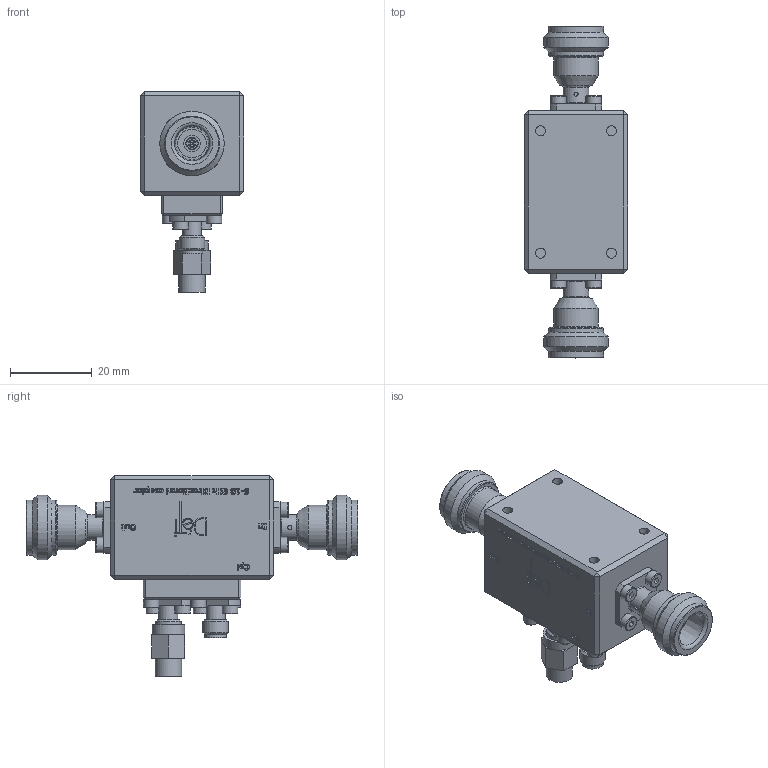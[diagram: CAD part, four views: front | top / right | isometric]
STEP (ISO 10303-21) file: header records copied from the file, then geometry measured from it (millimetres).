
FILE_DESCRIPTION(/* description */ ('Unknown'),/* implementation_level */ '2;1');
FILE_NAME(/* name */ 'DETI_MICROWAVE_HIGH_POWER_UNIDIRECTIONAL_COUPLER_011081_STEP',/* time_stamp */ '2021-06-10T12:13:29+02:00',/* author */ ('ALG'),/* organization */ ('DETI'),/* preprocessor_version */ 'ST-DEVELOPER v16.7',/* originating_system */ 'Solid Edge',/* authorisation */ 'Unknown');
FILE_SCHEMA (('AUTOMOTIVE_DESIGN {1 0 10303 214 3 1 1}'));
Length unit declared in the file: millimetre
Products named in the file (1): CD-1-6000-18000-40-200-NF-NF-SF2
Bounding box: 25.4 x 81.4 x 49.17 mm (x, y, z)
Volume: 30061.4 mm3; surface area: 12066.5 mm2
Topology: 1 solids, 21 shells, 921 faces, 2231 edges, 1451 vertices
Faces by surface type: plane 591, cylinder 127, cone 100, bspline 75, torus 28
Full cylindrical faces by diameter (mm): 0.459 x1, 0.8 x1, 0.975 x2, 0.985 x2, 1 x4, 1.265 x2, 1.27 x1, 1.275 x2, 1.567 x4, 2 x12, 2.1 x2, 2.2 x4, 2.459 x4, 2.9 x8, 3.03 x2, 3.8 x16, 4.06 x2, 4.1 x2, 4.11 x2, 4.6 x2, 4.64 x2, 5.35 x2, 6.255 x2, 6.3 x2, 6.5 x1, 6.7 x1, 6.8 x1, 7 x2, 8 x1, 10.9 x2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
Entity records: 33162 total; most frequent: CARTESIAN_POINT 7064, ORIENTED_EDGE 3874, DIRECTION 3718, EDGE_CURVE 1937, VERTEX_POINT 1365, AXIS2_PLACEMENT_3D 1276, FACE_BOUND 1256, EDGE_LOOP 1234
